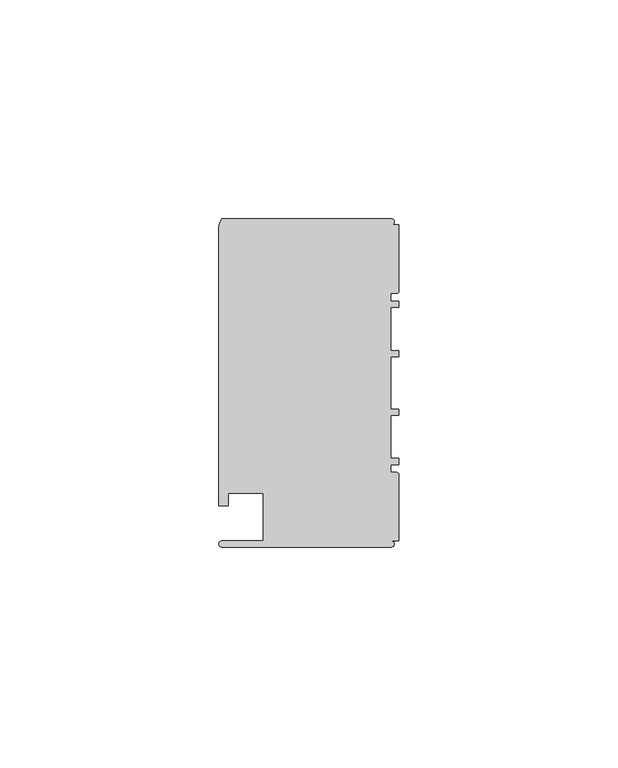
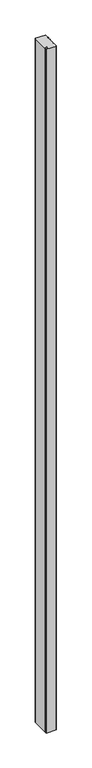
"""IFC4 building model written with IfcOpenShell, lengths in millimetres: member geometry, Прямоугольный импост : 1-AMG-1-Профиль 40Х75 Низ Л."""

from ifc_helpers import new_model, si_unit, point, frame, frame_2d, origin, place, context, project, spatial, polyline, circle_curve, trimmed, segment, composite_curve, outline, extrude, source, transform, mapped, element, save


def member_26f2d505(model_context):
    return source(origin(), model_context, "Body", "SweptSolid", [
        extrude(outline(composite_curve([segment(polyline([(-1.7, -37.5), (-40.4, -37.5)]), True, "CONTINUOUS"), segment(trimmed(circle_curve(frame_2d((-40.4, -36.8)), 0.7), [point((-40.4, -37.5))], [point((-40.4, -36.1))], False, "CARTESIAN"), True, "CONTINUOUS"), segment(polyline([(-40.4, -36.1), (-31.0, -36.1), (-31.0, -25.25), (-39.0, -25.25), (-39.0, -28.1), (-41.1, -28.1), (-41.1, 35.6)]), True, "CONTINUOUS"), segment(trimmed(circle_curve(frame_2d((-38.1714286, 35.6)), 2.9285714), [point((-41.1, 35.6))], [point((-40.4, 37.5))], False, "CARTESIAN"), True, "CONTINUOUS"), segment(polyline([(-40.4, 37.5), (-1.7, 37.5)]), True, "CONTINUOUS"), segment(trimmed(circle_curve(frame_2d((-1.7, 36.8)), 0.7), [point((-1.7, 37.5))], [point((-1.7, 36.1))], False, "CARTESIAN"), True, "CONTINUOUS"), segment(polyline([(-1.7, 36.1), (0.0, 36.1), (0.0, 20.95)]), True, "CONTINUOUS"), segment(trimmed(circle_curve(frame_2d((-0.5, 20.95)), 0.5), [point((0.0, 20.95))], [point((-0.5, 20.45))], False, "CARTESIAN"), True, "CONTINUOUS"), segment(polyline([(-0.5, 20.45), (-1.8, 20.45), (-1.8, 18.65), (0.0, 18.65), (0.0, 17.25), (-1.8, 17.25), (-1.8, 7.4), (0.0, 7.4), (0.0, 6.0), (-1.8, 6.0), (-1.8, -6.0), (0.0, -6.0), (0.0, -7.4), (-1.8, -7.4), (-1.8, -17.25), (0.0, -17.25), (0.0, -18.65), (-1.8, -18.65), (-1.8, -20.45), (-0.5, -20.45)]), True, "CONTINUOUS"), segment(trimmed(circle_curve(frame_2d((-0.5, -20.95)), 0.5), [point((-0.5, -20.45))], [point((0.0, -20.95))], False, "CARTESIAN"), True, "CONTINUOUS"), segment(polyline([(0.0, -20.95), (0.0, -36.1), (-1.7, -36.1)]), True, "CONTINUOUS"), segment(trimmed(circle_curve(frame_2d((-1.7, -36.8)), 0.7), [point((-1.7, -36.1))], [point((-1.7, -37.5))], False, "CARTESIAN"), True, "CONTINUOUS")], self_intersect=False)), frame((0.0, 0.0, -2800.0), z_axis=(0.0, 0.0, 1.0), x_axis=(1.0, 0.0, 0.0)), (0.0, 0.0, 1.0), 2800.0),
    ])


if __name__ == "__main__":
    model = new_model("IFC4")
    model_context = context("Model", 3, world=origin())
    ifc_project = project(units=[si_unit("LENGTHUNIT", "METRE", prefix="MILLI")], contexts=[model_context])
    site = spatial("IfcSite", under=ifc_project)
    building = spatial("IfcBuilding", under=site)
    placement = place(None, origin())
    member_shape = member_26f2d505(model_context)
    element("IfcMember", 1, ObjectType="Прямоугольный импост : 1-AMG-1-Профиль 40Х75 Низ Л", at=placement, inside=building, context=model_context, shape_type="MappedRepresentation", body=[
        mapped(member_shape, transform((0.0, 0.0, 0.0), x_axis=(1.0, 0.0, 0.0), y_axis=(0.0, 1.0, 0.0), z_axis=(0.0, 0.0, 1.0))),
    ])
    save(model, "model.ifc")
